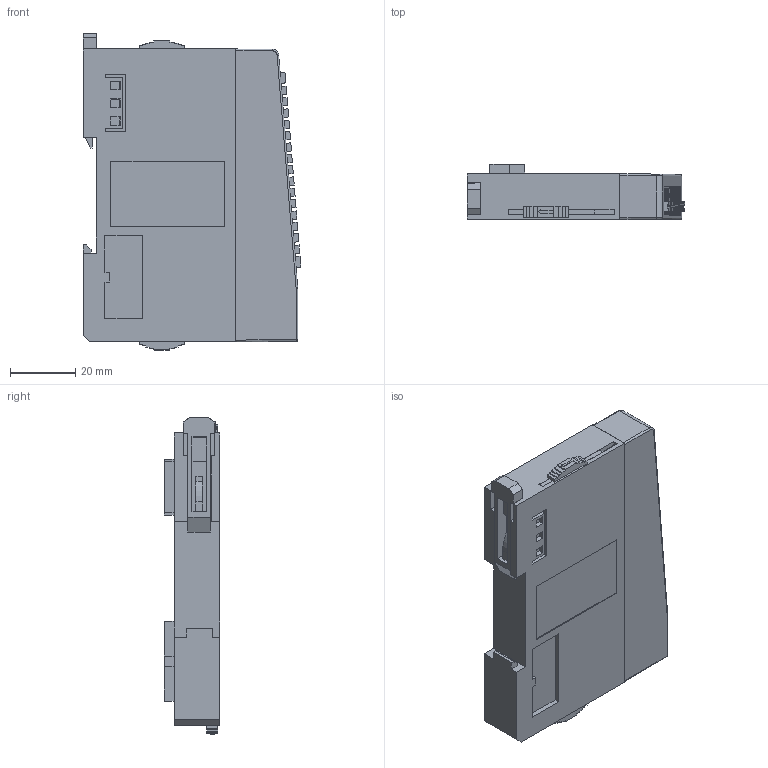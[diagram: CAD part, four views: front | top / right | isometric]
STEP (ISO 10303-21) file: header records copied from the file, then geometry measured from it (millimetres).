
FILE_DESCRIPTION(/* description */ (''),/* implementation_level */ '2;1');
FILE_NAME(/* name */ 'EX-16点模块.stp',/* time_stamp */ '2022-01-13T15:30:27+08:00',/* author */ (''),/* organization */ (''),/* preprocessor_version */ 'ST-DEVELOPER v16',/* originating_system */ 'SIEMENS PLM Software NX 10.0',/* authorisation */ '');
FILE_SCHEMA (('AP203_CONFIGURATION_CONTROLLED_3D_DESIGN_OF_MECHANICAL_PARTS_AND_ASSEMBLIES_MIM_LF { 1 0 10303 403 2 1 2}'));
Length unit declared in the file: millimetre
Products named in the file (1): 73494C981A9Cmigc
Bounding box: 66.98 x 17 x 97.45 mm (x, y, z)
Volume: 78629.9 mm3; surface area: 27118.6 mm2
Topology: 6 solids, 6 shells, 920 faces, 2437 edges, 1617 vertices
Faces by surface type: plane 814, cone 69, cylinder 32, sphere 3, torus 2
Full cylindrical faces by diameter (mm): 1.2 x17
Entity records: 28065 total; most frequent: CARTESIAN_POINT 4993, ORIENTED_EDGE 4838, DIRECTION 4447, EDGE_CURVE 2419, LINE 2213, VECTOR 2213, VERTEX_POINT 1617, AXIS2_PLACEMENT_3D 1117
